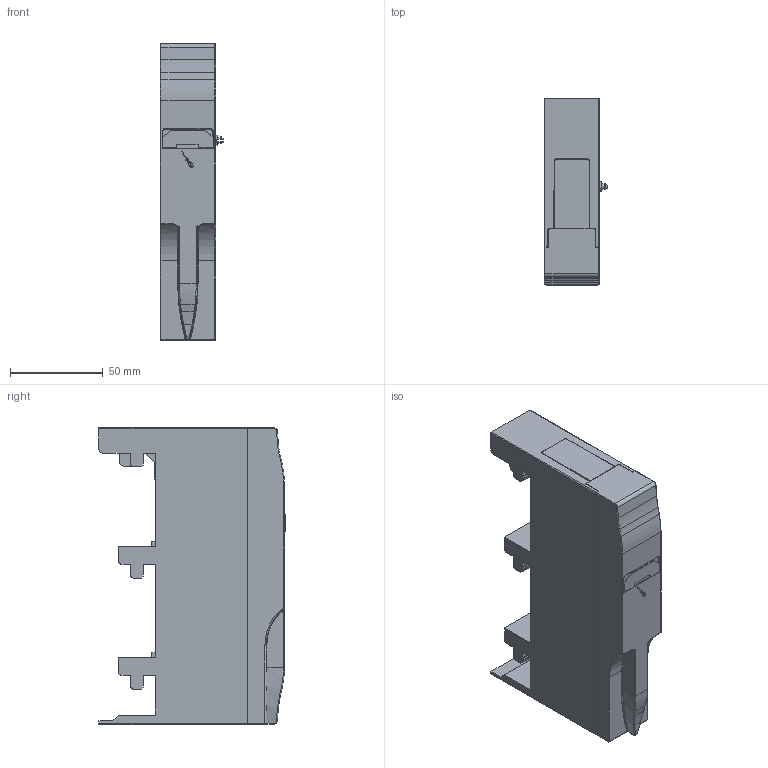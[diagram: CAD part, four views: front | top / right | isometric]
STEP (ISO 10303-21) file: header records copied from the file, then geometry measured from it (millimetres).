
FILE_DESCRIPTION (( 'STEP AP214' ), '1' );
FILE_NAME ('54370.STEP', '2021-02-26T06:40:37', ( '' ), ( '' ), 'SwSTEP 2.0', 'SolidWorks 2017', '' );
FILE_SCHEMA (( 'AUTOMOTIVE_DESIGN' ));
Length unit declared in the file: millimetre
Products named in the file (2): 54370
Bounding box: 34.5 x 100.4 x 160.6 mm (x, y, z)
Volume: 349818.8 mm3; surface area: 56142.4 mm2
Topology: 1 solids, 5 shells, 593 faces, 1658 edges, 1075 vertices
Faces by surface type: plane 395, cylinder 143, bspline 27, torus 16, sphere 6, cone 6
Full cylindrical faces by diameter (mm): 5.4 x1, 8 x1
Entity records: 25486 total; most frequent: CARTESIAN_POINT 4483, ORIENTED_EDGE 3300, DIRECTION 2952, EDGE_CURVE 1650, VECTOR 1244, LINE 1244, VERTEX_POINT 1073, AXIS2_PLACEMENT_3D 854
